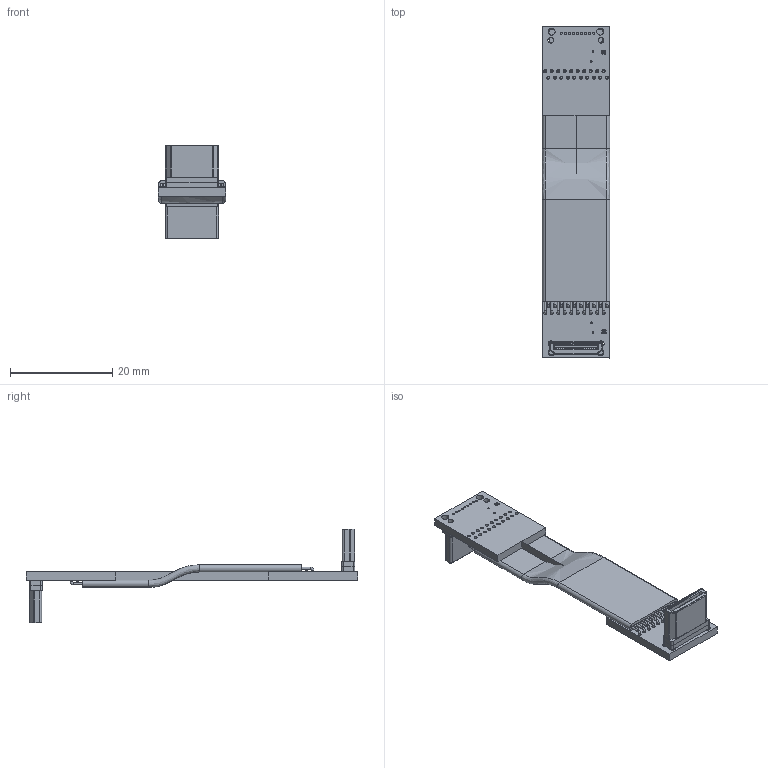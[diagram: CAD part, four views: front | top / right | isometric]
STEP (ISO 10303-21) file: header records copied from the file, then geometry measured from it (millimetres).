
FILE_DESCRIPTION(('Open CASCADE Model'),'2;1');
FILE_NAME('Open CASCADE Shape Model','2022-06-09T21:13:02',('Author'),( 'Open CASCADE'),'Open CASCADE STEP processor 6.8','Open CASCADE 6.8' ,'Unknown');
FILE_SCHEMA(('AUTOMOTIVE_DESIGN { 1 0 10303 214 1 1 1 1 }'));
Length unit declared in the file: millimetre
Products named in the file (48): PCB; Board; Open CASCADE STEP translator 6.8 12.1.1; Open CASCADE STEP translator 6.8 12.2; miniHDMI-p_RGB10275833; HDMI_type_C1; _1; Free-Models; cable20-A1A3
Assembly tree (51 placements, depth 3):
  PCB
    Board
      Open CASCADE STEP translator 6.8 12.1.1
    Open CASCADE STEP translator 6.8 12.2
      miniHDMI-p_RGB10275833  x2
      HDMI_type_C1
    _1
      miniHDMI-p_RGB10275833  x2
      HDMI_type_C1
    Free-Models
      cable20-A1A3
      cable20-A1A3
      cable20-A1A3
      cable20-A1A3
      cable20-A1A3
      cable20-A1A3
      cable20-A1A3
      cable20-A1A3
      cable20-A1A3
      cable20-A1A3
      cable20-A1A3
      cable20-A1A3
      cable20-A1A3
      cable20-A1A3
      cable20-A1A3
      cable20-A1A3
      cable20-A1A3
      cable20-A1A3
      cable20-A1A3
      cable20-A1A3
      cable20-A1A3
      cable20-A1A3
      cable20-A1A3
      cable20-A1A3
      cable20-A1A3
      cable20-A1A3
      cable20-A1A3
      cable20-A1A3
      cable20-A1A3
      cable20-A1A3
      cable20-A1A3
      cable20-A1A3
      cable20-A1A3
      cable20-A1A3
      cable20-A1A3
      cable20-A1A3
      cable20-A1A3
      cable20-A1A3
      cable20-A1A3
      cable20-A1A3
Bounding box: 13.22 x 65 x 18.4 mm (x, y, z)
Volume: 1726.7 mm3; surface area: 4850.3 mm2
Topology: 47 solids, 47 shells, 712 faces, 1726 edges, 1110 vertices
Faces by surface type: plane 352, cylinder 262, torus 52, bspline 46
Full cylindrical faces by diameter (mm): 0.304 x12, 0.4 x114, 0.404 x2, 0.405 x2, 0.6 x40, 1.1 x4, 1.4 x4
Entity records: 22238 total; most frequent: CARTESIAN_POINT 5335, DIRECTION 2532, ORIENTED_EDGE 2420, EDGE_CURVE 1210, AXIS2_PLACEMENT_3D 997, VERTEX_POINT 768, FACE_BOUND 728, EDGE_LOOP 728
